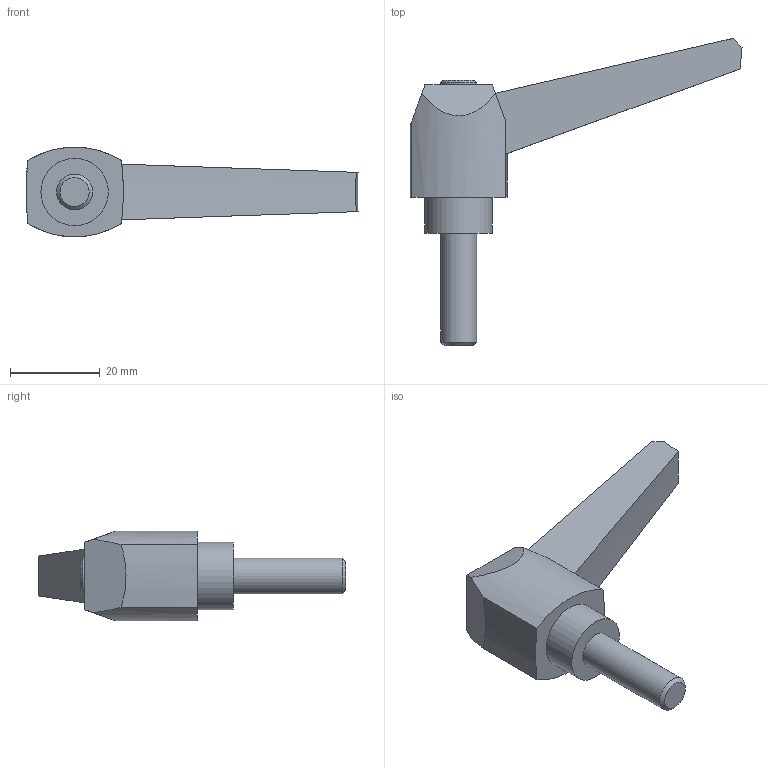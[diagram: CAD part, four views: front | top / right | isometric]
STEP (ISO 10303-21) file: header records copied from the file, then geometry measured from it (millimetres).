
FILE_DESCRIPTION( ( 'STEP AP203' ), '1' );
FILE_NAME( 'C:/Temp/Ganter_Step_05_03_2020/data/2_1/gn_500/gn_500_ms/Adjustable hand lever GN 500-63-M8-25-SW.stp', '2020-03-05T11:26:34', ( 'License CC BY-ND 4.0' ), ( 'CADENAS' ), ' ', 'PARTsolutions', ' ' );
FILE_SCHEMA( ( 'CONFIG_CONTROL_DESIGN' ) );
Length unit declared in the file: millimetre
Products named in the file (1): _Adjustable hand lever GN 500-63-M8-25-SW
Bounding box: 73.9 x 68.35 x 20 mm (x, y, z)
Volume: 17744 mm3; surface area: 5591.8 mm2
Topology: 1 solids, 1 shells, 24 faces, 56 edges, 37 vertices
Faces by surface type: plane 11, cylinder 7, cone 6
Full cylindrical faces by diameter (mm): 8 x2, 15 x1
Entity records: 708 total; most frequent: DIRECTION 122, CARTESIAN_POINT 117, ORIENTED_EDGE 100, EDGE_CURVE 50, AXIS2_PLACEMENT_3D 49, VERTEX_POINT 36, EDGE_LOOP 32, FACE_OUTER_BOUND 27
